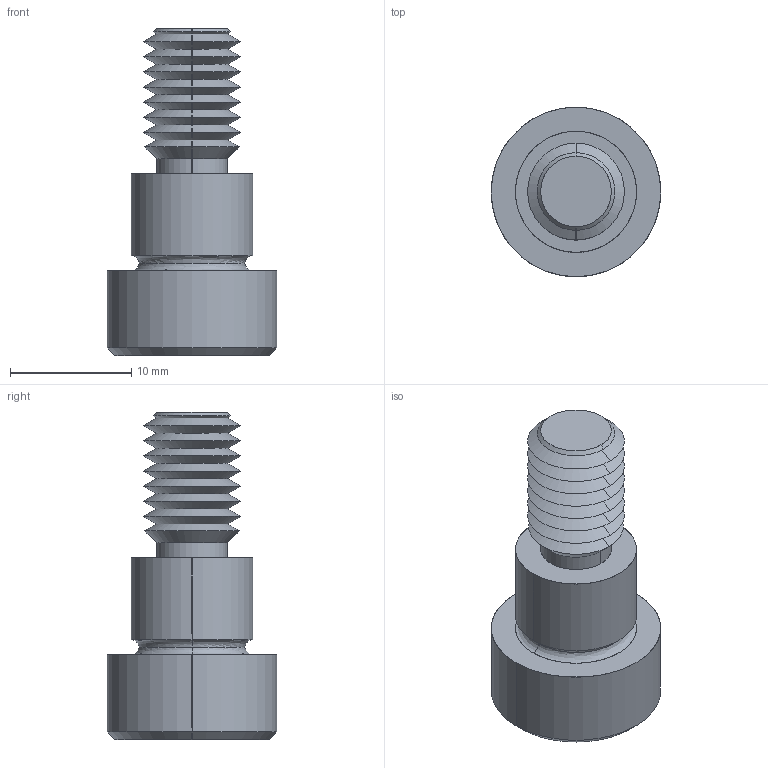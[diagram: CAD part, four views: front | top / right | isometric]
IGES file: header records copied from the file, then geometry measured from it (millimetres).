
Start section: SolidWorks IGES file using analytic representation for surfaces
Global section: file name: C:\Users\IanO\Documents\Temp Folder\GENERAL\SCREW REVISION\P0130_v2\P0130.T5_v2_20220106_IGES\P0130.100-008-T5.igs; native system: SolidWorks 2019; preprocessor: SolidWorks 2019; author: IanO; date: 220106.224026; units: millimetre
Bounding box: 14 x 14 x 27 mm (x, y, z)
Surface area: 1427.9 mm2 (no closed solid volume)
Topology: 0 solids, 0 shells, 72 faces, 548 edges, 546 vertices
Faces by surface type: revolution 52, bspline 20
